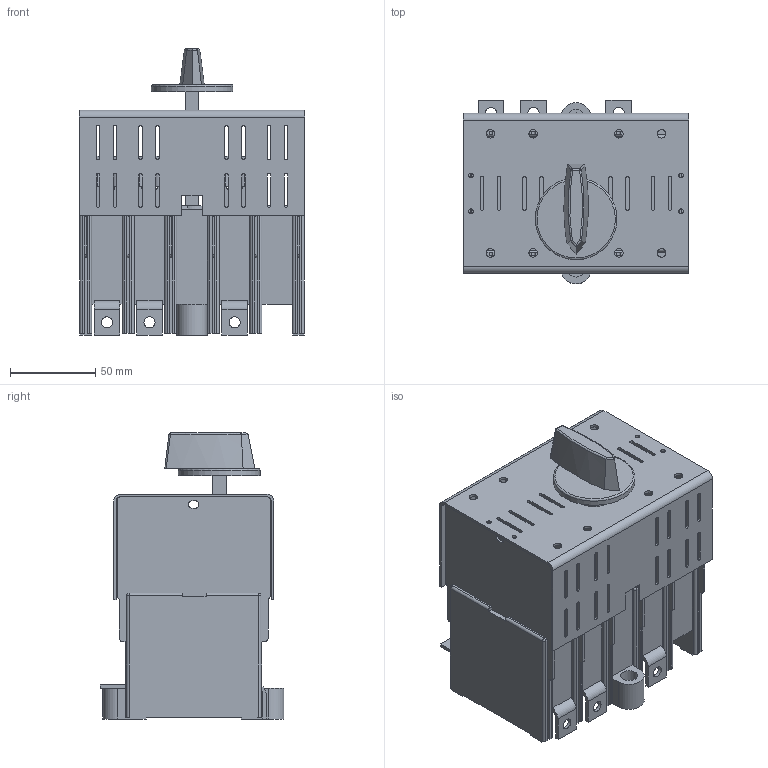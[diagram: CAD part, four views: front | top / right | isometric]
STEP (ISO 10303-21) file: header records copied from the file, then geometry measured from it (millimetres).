
FILE_DESCRIPTION(/* description */ (''),/* implementation_level */ '2;1');
FILE_NAME(/* name */ 'RAB 000 P3 B-R.stp',/* time_stamp */ '2021-08-19T10:36:08+02:00',/* author */ (''),/* organization */ (''),/* preprocessor_version */ 'ST-DEVELOPER v18.1',/* originating_system */ 'SIEMENS PLM Software NX 1965',/* authorisation */ '');
FILE_SCHEMA (('AUTOMOTIVE_DESIGN { 1 0 10303 214 3 1 1 1 }'));
Length unit declared in the file: millimetre
Products named in the file (1): RAB 000 P3 B-R_stp
Bounding box: 132.5 x 108 x 168 mm (x, y, z)
Volume: 755109.4 mm3; surface area: 213403.6 mm2
Topology: 1 solids, 1 shells, 1031 faces, 2912 edges, 1863 vertices
Faces by surface type: plane 657, cylinder 341, sphere 25, bspline 7, torus 1
Full cylindrical faces by diameter (mm): 2.7 x4, 5 x8, 5.8 x2, 6.5 x6, 10 x2, 20 x1, 48 x1
Entity records: 33229 total; most frequent: CARTESIAN_POINT 6230, ORIENTED_EDGE 5698, DIRECTION 5475, EDGE_CURVE 2849, LINE 2079, VECTOR 2079, VERTEX_POINT 1851, AXIS2_PLACEMENT_3D 1698
